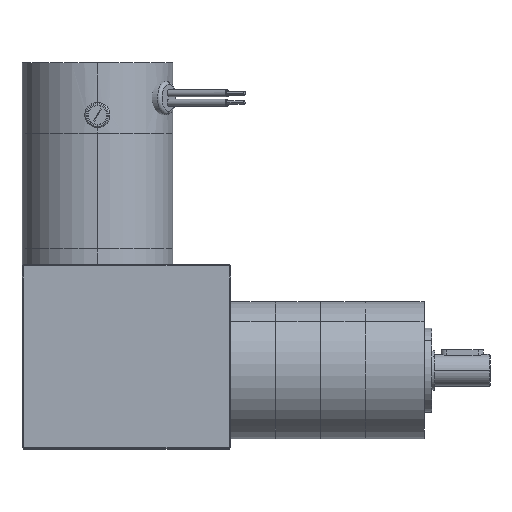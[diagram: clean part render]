
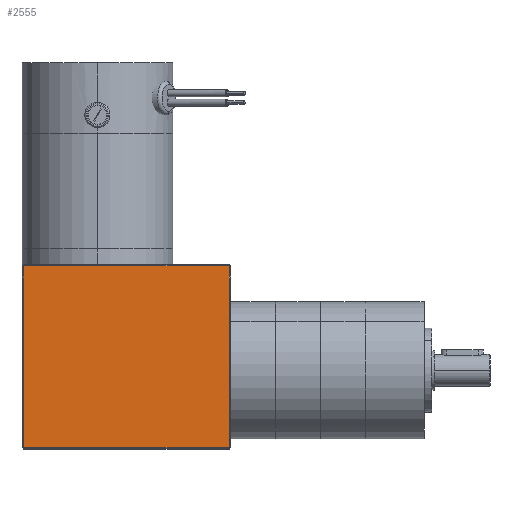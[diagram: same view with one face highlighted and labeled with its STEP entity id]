
A CAD part, top view. The second image highlights one B-rep face of the part: STEP entity #2555.
In plain terms, the highlighted planar face has unit normal (0, 0, 1).
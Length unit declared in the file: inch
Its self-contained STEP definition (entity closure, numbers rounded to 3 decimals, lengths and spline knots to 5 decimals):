
#465 = DIRECTION ( 'NONE',  ( 0., 1., 0. ) ) ;
#555 = ORIENTED_EDGE ( 'NONE', *, *, #10961, .T. ) ;
#1380 = CARTESIAN_POINT ( 'NONE',  ( 4.64872, 0.76643, 4.88687 ) ) ;
#1428 = VERTEX_POINT ( 'NONE', #4982 ) ;
#1778 = VECTOR ( 'NONE', #5388, 39.37008 ) ;
#2017 = FACE_OUTER_BOUND ( 'NONE', #6411, .T. ) ;
#2116 = CARTESIAN_POINT ( 'NONE',  ( 4.64872, 3.47643, 4.88687 ) ) ;
#2276 = CARTESIAN_POINT ( 'NONE',  ( 6.18522, 2.12143, 4.88687 ) ) ;
#2555 = ADVANCED_FACE ( 'NONE', ( #2017 ), #15557, .T. ) ;
#3096 = CARTESIAN_POINT ( 'NONE',  ( 4.64872, 0.74643, 4.88687 ) ) ;
#3182 = LINE ( 'NONE', #3096, #7172 ) ;
#3243 = LINE ( 'NONE', #4445, #4771 ) ;
#3428 = LINE ( 'NONE', #7899, #1778 ) ;
#3513 = CARTESIAN_POINT ( 'NONE',  ( 7.72172, 3.47643, 4.88687 ) ) ;
#4368 = EDGE_CURVE ( 'NONE', #9298, #12724, #3428, .T. ) ;
#4445 = CARTESIAN_POINT ( 'NONE',  ( 7.74172, 0.76643, 4.88687 ) ) ;
#4771 = VECTOR ( 'NONE', #11865, 39.37008 ) ;
#4982 = CARTESIAN_POINT ( 'NONE',  ( 7.72172, 0.76643, 4.88687 ) ) ;
#5388 = DIRECTION ( 'NONE',  ( -1., 0., 0. ) ) ;
#5788 = DIRECTION ( 'NONE',  ( 0., 0., 1. ) ) ;
#6411 = EDGE_LOOP ( 'NONE', ( #7686, #555, #11632, #13369 ) ) ;
#6783 = VERTEX_POINT ( 'NONE', #1380 ) ;
#6842 = DIRECTION ( 'NONE',  ( 1., 0., 0. ) ) ;
#7128 = VECTOR ( 'NONE', #465, 39.37008 ) ;
#7172 = VECTOR ( 'NONE', #14010, 39.37008 ) ;
#7396 = EDGE_CURVE ( 'NONE', #6783, #1428, #3243, .T. ) ;
#7686 = ORIENTED_EDGE ( 'NONE', *, *, #7396, .T. ) ;
#7899 = CARTESIAN_POINT ( 'NONE',  ( 4.62872, 3.47643, 4.88687 ) ) ;
#9096 = EDGE_CURVE ( 'NONE', #12724, #6783, #3182, .T. ) ;
#9298 = VERTEX_POINT ( 'NONE', #3513 ) ;
#10377 = LINE ( 'NONE', #12591, #7128 ) ;
#10871 = AXIS2_PLACEMENT_3D ( 'NONE', #2276, #5788, #6842 ) ;
#10961 = EDGE_CURVE ( 'NONE', #1428, #9298, #10377, .T. ) ;
#11632 = ORIENTED_EDGE ( 'NONE', *, *, #4368, .T. ) ;
#11865 = DIRECTION ( 'NONE',  ( 1., 0., 0. ) ) ;
#12591 = CARTESIAN_POINT ( 'NONE',  ( 7.72172, 3.49643, 4.88687 ) ) ;
#12724 = VERTEX_POINT ( 'NONE', #2116 ) ;
#13369 = ORIENTED_EDGE ( 'NONE', *, *, #9096, .T. ) ;
#14010 = DIRECTION ( 'NONE',  ( 0., -1., 0. ) ) ;
#15557 = PLANE ( 'NONE',  #10871 ) ;
